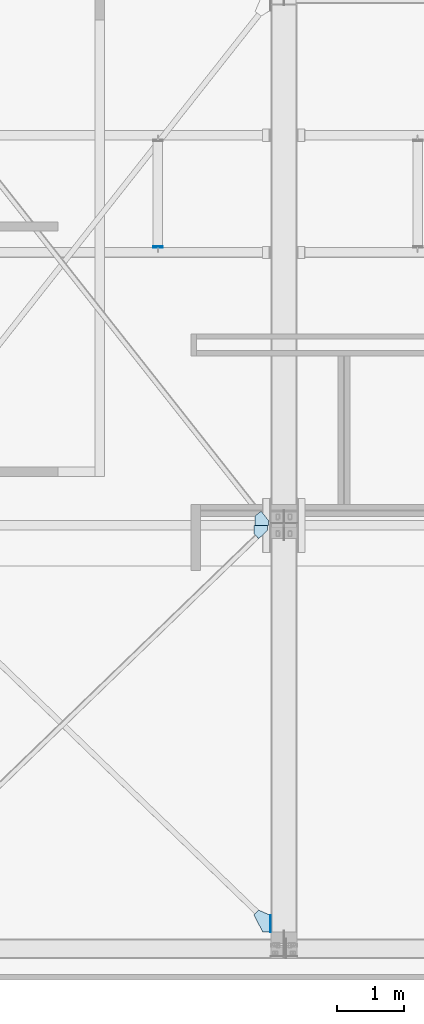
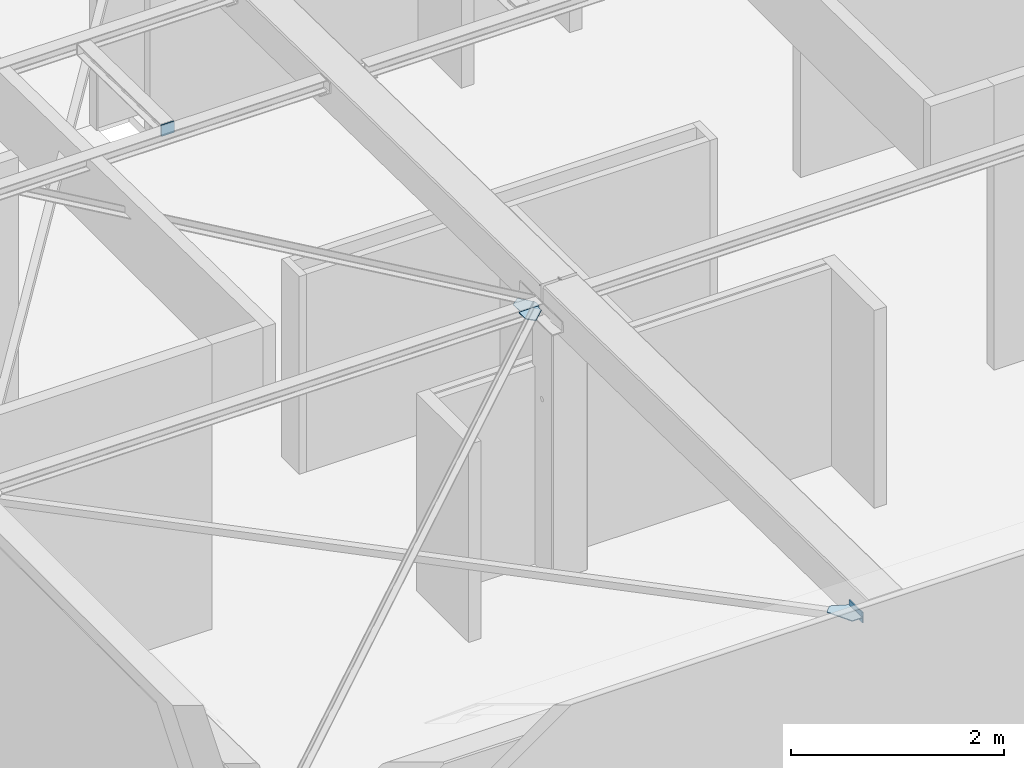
# One storey, part 117 of 186: 6 plates.
"""IFC4X3_ADD2 building model written with IfcOpenShell, lengths in millimetres."""

from ifc_helpers import new_model, si_unit, direction, frame, frame_2d, origin_with_axes, place, context, subcontext, project, spatial, polyline, rectangle, outline, extrude, material, element, save


model = new_model("IFC4X3_ADD2")

# Units and contexts
model_context = context("Model", 3, precision=1e-05, world=origin_with_axes(), true_north=direction((0.0, 1.0)))
body_context = subcontext(model_context, "Body", "Model", "MODEL_VIEW")
ifc_project = project(units=[si_unit("LENGTHUNIT", "METRE", prefix="MILLI"), si_unit("AREAUNIT", "SQUARE_METRE"), si_unit("VOLUMEUNIT", "CUBIC_METRE"), si_unit("PLANEANGLEUNIT", "RADIAN"), si_unit("TIMEUNIT", "SECOND"), si_unit("MASSUNIT", "GRAM")], contexts=[model_context])

# Site, building, storey
site_placement = place(None, origin_with_axes())
site = spatial("IfcSite", under=ifc_project, at=site_placement, Name="Site", CompositionType="ELEMENT")
building_placement = place(site_placement, origin_with_axes())
building = spatial("IfcBuilding", under=site, at=building_placement, Name="IFC Building Story")
storey_placement = place(building_placement, frame((0.0, 0.0, 4370.0), z_axis=(0.0, 0.0, 1.0), x_axis=(1.0, 0.0, 0.0)))
storey = spatial("IfcBuildingStorey", under=building, at=storey_placement, Name="ETAGE 10 (1)", Elevation=4370.0)

# Plates
ifc_material = material(Name="Acier - B 500 B")
plate_1_placement = place(storey_placement, frame((38026.18934820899, -3920.440948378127, 3092.276656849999), z_axis=(0.0, 0.0, 1.0), x_axis=(1.0, 0.0, 0.0)))
element("IfcPlate", 1, at=plate_1_placement, inside=storey, material=ifc_material, Name="-", ObjectType="Aucun", context=body_context, shape_type="SweptSolid", body=[
    extrude(rectangle(XDim=140.0, YDim=10.0, at=frame_2d((0.0, 5.95523630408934e-12), x_axis=(1.0, 0.0))), frame((70.0, 4.999360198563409, 0.07998502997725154), z_axis=(0.0, 0.0159970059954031, 0.999872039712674), x_axis=(1.0, 0.0, 0.0)), (0.0, 0.0, 1.0), 123.0),
])
plate_2_placement = place(storey_placement, frame((38026.18934820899, -3910.476857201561, 3092.07978694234), z_axis=(0.0, 0.0, 1.0), x_axis=(1.0, 0.0, 0.0)))
element("IfcPlate", 2, at=plate_2_placement, inside=storey, material=ifc_material, Name="-", ObjectType="Aucun", context=body_context, shape_type="SweptSolid", body=[
    extrude(rectangle(XDim=140.0, YDim=9.99999999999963, at=frame_2d((0.0, 5.95523630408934e-12), x_axis=(1.0, 0.0))), frame((70.0, 4.999360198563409, 0.07998502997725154), z_axis=(0.0, 0.0159970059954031, 0.999872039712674), x_axis=(1.0, 0.0, 0.0)), (0.0, 0.0, 1.0), 123.0),
])
plate_3_placement = place(storey_placement, frame((39520.84708963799, -8235.143462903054, 3044.646647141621), z_axis=(0.0, 0.0, 1.0), x_axis=(1.0, 0.0, 0.0)))
element("IfcPlate", 3, at=plate_3_placement, inside=storey, material=ifc_material, Name="-", ObjectType="Aucun", context=body_context, shape_type="SweptSolid", body=[
    extrude(outline(polyline([(-94.11183518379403, 78.90952645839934), (105.888164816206, 78.90952645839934), (105.888164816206, 6.440821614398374), (-23.55265926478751, -118.639444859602), (-94.11183518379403, -45.6204296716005), (-94.11183518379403, 78.90952645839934)])), frame((94.1118351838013, 118.6261001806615, 1.1835094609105), z_axis=(0.0, 0.01499830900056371, 0.9998875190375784), x_axis=(1.0, 0.0, 0.0)), (0.0, 0.0, 1.0), 9.999999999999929),
])
plate_4_placement = place(storey_placement, frame((39505.86765015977, -13787.08016325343, 3115.226464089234), z_axis=(0.0, 0.0, 1.0), x_axis=(0.458913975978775, -0.8884807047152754, 0.0)))
element("IfcPlate", 4, at=plate_4_placement, inside=storey, material=ifc_material, Name="-", ObjectType="Aucun", context=body_context, shape_type="SweptSolid", body=[
    extrude(outline(polyline([(144.7479372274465, -80.59492190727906), (-139.3157003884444, -80.56886466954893), (-171.8076737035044, 15.63547462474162), (-27.93961089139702, 130.1695911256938), (194.3150477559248, 15.35872082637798), (144.7479372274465, -80.59492190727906)])), frame((171.9256757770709, 80.57973500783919, 2.397032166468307), z_axis=(-0.0133257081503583, 0.006882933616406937, 0.9998875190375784), x_axis=(0.9999112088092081, 9.172810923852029e-05, 0.01332539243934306)), (0.0, 0.0, 1.0), 10.0),
])
plate_5_placement = place(storey_placement, frame((39539.116942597, -7826.082635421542, 3042.125509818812), z_axis=(0.0, 0.0, 1.0), x_axis=(0.0, -1.0, 0.0)))
element("IfcPlate", 5, at=plate_5_placement, inside=storey, material=ifc_material, Name="-", ObjectType="Aucun", context=body_context, shape_type="SweptSolid", body=[
    extrude(outline(polyline([(14.58847384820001, 102.2798115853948), (84.59972332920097, 102.2798115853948), (84.59972332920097, -97.72018841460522), (-56.98951415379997, -97.72018841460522), (-126.7984063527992, -9.119246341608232), (14.58847384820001, 102.2798115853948)])), frame((126.9341270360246, 97.72018841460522, 1.901761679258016), z_axis=(-0.01499830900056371, 0.0, 0.9998875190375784), x_axis=(0.9998875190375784, 0.0, 0.01499830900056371)), (0.0, 0.0, 1.0), 9.99999999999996),
])
plate_6_placement = place(storey_placement, frame((39759.187698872, -13817.45846672, 3061.862977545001), z_axis=(0.0, 0.0, 1.0), x_axis=(0.0, -1.0, 0.0)))
element("IfcPlate", 6, at=plate_6_placement, inside=storey, material=ifc_material, Name="-", ObjectType="Aucun", context=body_context, shape_type="SweptSolid", body=[
    extrude(rectangle(XDim=249.9999999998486, YDim=12.0, at=frame_2d((0.0, 5.95523630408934e-12), x_axis=(-1.0, 0.0))), frame((126.7857369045, 6.0, 1.874788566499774), z_axis=(-0.01499830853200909, 0.0, 0.9998875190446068), x_axis=(0.9998875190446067, 0.0, 0.01499830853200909)), (0.0, 0.0, 1.0), 120.0000000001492),
])

save(model, "model.ifc")
